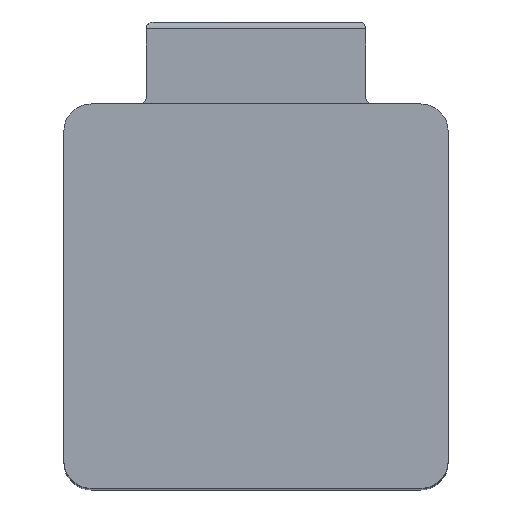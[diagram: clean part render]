
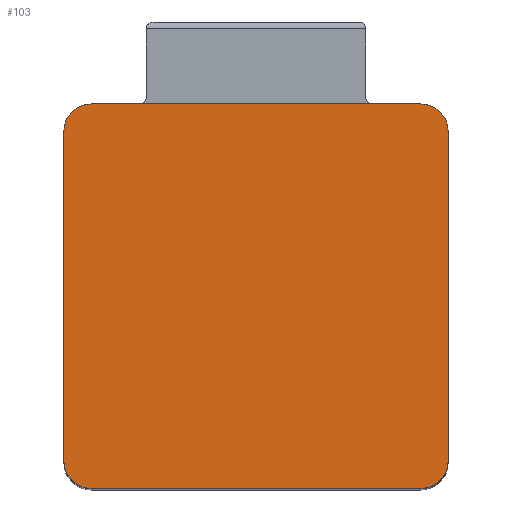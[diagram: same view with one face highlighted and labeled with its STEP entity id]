
A CAD part, top view. The second image highlights one B-rep face of the part: STEP entity #103.
In plain terms, the highlighted planar face has unit normal (0, 0, 1).
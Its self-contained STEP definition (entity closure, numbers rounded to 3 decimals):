
#29 = AXIS2_PLACEMENT_3D ( 'NONE', #576, #1266, #1956 ) ;
#50 = CARTESIAN_POINT ( 'NONE',  ( -12., -12., 69. ) ) ;
#103 = ADVANCED_FACE ( 'NONE', ( #910 ), #1606, .T. ) ;
#118 = VECTOR ( 'NONE', #1289, 1000. ) ;
#142 = EDGE_CURVE ( 'NONE', #1205, #2124, #417, .T. ) ;
#151 = EDGE_CURVE ( 'NONE', #2126, #822, #2154, .T. ) ;
#255 = DIRECTION ( 'NONE',  ( 0., 0., 1. ) ) ;
#309 = AXIS2_PLACEMENT_3D ( 'NONE', #50, #744, #1439 ) ;
#320 = EDGE_CURVE ( 'NONE', #1524, #2151, #1880, .T. ) ;
#332 = CARTESIAN_POINT ( 'NONE',  ( -12., -14., 69. ) ) ;
#368 = CARTESIAN_POINT ( 'NONE',  ( 14., -12., 69. ) ) ;
#417 = LINE ( 'NONE', #1104, #419 ) ;
#419 = VECTOR ( 'NONE', #1800, 1000. ) ;
#446 = CARTESIAN_POINT ( 'NONE',  ( 12., -12., 69. ) ) ;
#465 = DIRECTION ( 'NONE',  ( 0., 0., 1. ) ) ;
#495 = ORIENTED_EDGE ( 'NONE', *, *, #320, .T. ) ;
#576 = CARTESIAN_POINT ( 'NONE',  ( 12., 12., 69. ) ) ;
#591 = ORIENTED_EDGE ( 'NONE', *, *, #1801, .T. ) ;
#600 = CARTESIAN_POINT ( 'NONE',  ( -12., 14., 69. ) ) ;
#623 = LINE ( 'NONE', #1313, #1950 ) ;
#666 = CARTESIAN_POINT ( 'NONE',  ( -12., -14., 69. ) ) ;
#685 = ORIENTED_EDGE ( 'NONE', *, *, #2027, .T. ) ;
#699 = VERTEX_POINT ( 'NONE', #368 ) ;
#744 = DIRECTION ( 'NONE',  ( 0., 0., 1. ) ) ;
#787 = CIRCLE ( 'NONE', #2058, 2. ) ;
#822 = VERTEX_POINT ( 'NONE', #2150 ) ;
#860 = AXIS2_PLACEMENT_3D ( 'NONE', #2015, #465, #1147 ) ;
#880 = ORIENTED_EDGE ( 'NONE', *, *, #142, .T. ) ;
#910 = FACE_OUTER_BOUND ( 'NONE', #1134, .T. ) ;
#941 = DIRECTION ( 'NONE',  ( 1., 0., 0. ) ) ;
#964 = AXIS2_PLACEMENT_3D ( 'NONE', #446, #1131, #1826 ) ;
#1015 = DIRECTION ( 'NONE',  ( 1., 0., 0. ) ) ;
#1092 = CARTESIAN_POINT ( 'NONE',  ( -14., 12., 69. ) ) ;
#1104 = CARTESIAN_POINT ( 'NONE',  ( -14., -12., 69. ) ) ;
#1120 = CARTESIAN_POINT ( 'NONE',  ( -14., -12., 69. ) ) ;
#1131 = DIRECTION ( 'NONE',  ( 0., 0., 1. ) ) ;
#1134 = EDGE_LOOP ( 'NONE', ( #1831, #495, #1587, #591, #685, #1549, #1393, #880 ) ) ;
#1147 = DIRECTION ( 'NONE',  ( -1., 0., 0. ) ) ;
#1205 = VERTEX_POINT ( 'NONE', #1092 ) ;
#1266 = DIRECTION ( 'NONE',  ( 0., 0., 1. ) ) ;
#1289 = DIRECTION ( 'NONE',  ( -1., 0., 0. ) ) ;
#1292 = CARTESIAN_POINT ( 'NONE',  ( 14., 12., 69. ) ) ;
#1313 = CARTESIAN_POINT ( 'NONE',  ( 14., -12., 69. ) ) ;
#1393 = ORIENTED_EDGE ( 'NONE', *, *, #1832, .T. ) ;
#1439 = DIRECTION ( 'NONE',  ( 1., 0., 0. ) ) ;
#1524 = VERTEX_POINT ( 'NONE', #666 ) ;
#1549 = ORIENTED_EDGE ( 'NONE', *, *, #151, .T. ) ;
#1587 = ORIENTED_EDGE ( 'NONE', *, *, #2156, .T. ) ;
#1606 = PLANE ( 'NONE',  #309 ) ;
#1778 = VERTEX_POINT ( 'NONE', #1292 ) ;
#1800 = DIRECTION ( 'NONE',  ( 0., -1., 0. ) ) ;
#1801 = EDGE_CURVE ( 'NONE', #699, #1778, #623, .T. ) ;
#1807 = CARTESIAN_POINT ( 'NONE',  ( -12., -12., 69. ) ) ;
#1816 = CARTESIAN_POINT ( 'NONE',  ( 12., 14., 69. ) ) ;
#1826 = DIRECTION ( 'NONE',  ( -1., 0., 0. ) ) ;
#1831 = ORIENTED_EDGE ( 'NONE', *, *, #2085, .T. ) ;
#1832 = EDGE_CURVE ( 'NONE', #822, #1205, #1837, .T. ) ;
#1837 = CIRCLE ( 'NONE', #860, 2. ) ;
#1880 = LINE ( 'NONE', #332, #2224 ) ;
#1950 = VECTOR ( 'NONE', #2004, 1000. ) ;
#1953 = CIRCLE ( 'NONE', #964, 2. ) ;
#1956 = DIRECTION ( 'NONE',  ( -1., 0., 0. ) ) ;
#1986 = CIRCLE ( 'NONE', #29, 2. ) ;
#1998 = CARTESIAN_POINT ( 'NONE',  ( 12., -14., 69. ) ) ;
#2004 = DIRECTION ( 'NONE',  ( 0., 1., 0. ) ) ;
#2015 = CARTESIAN_POINT ( 'NONE',  ( -12., 12., 69. ) ) ;
#2027 = EDGE_CURVE ( 'NONE', #1778, #2126, #1986, .T. ) ;
#2058 = AXIS2_PLACEMENT_3D ( 'NONE', #1807, #255, #941 ) ;
#2085 = EDGE_CURVE ( 'NONE', #2124, #1524, #787, .T. ) ;
#2124 = VERTEX_POINT ( 'NONE', #1120 ) ;
#2126 = VERTEX_POINT ( 'NONE', #1816 ) ;
#2150 = CARTESIAN_POINT ( 'NONE',  ( -12., 14., 69. ) ) ;
#2151 = VERTEX_POINT ( 'NONE', #1998 ) ;
#2154 = LINE ( 'NONE', #600, #118 ) ;
#2156 = EDGE_CURVE ( 'NONE', #2151, #699, #1953, .T. ) ;
#2224 = VECTOR ( 'NONE', #1015, 1000. ) ;
